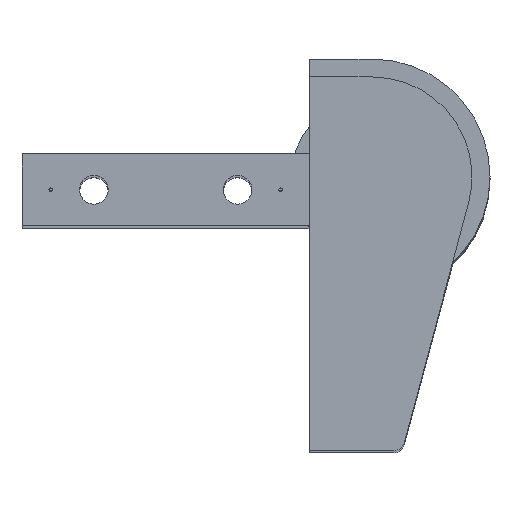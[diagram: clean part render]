
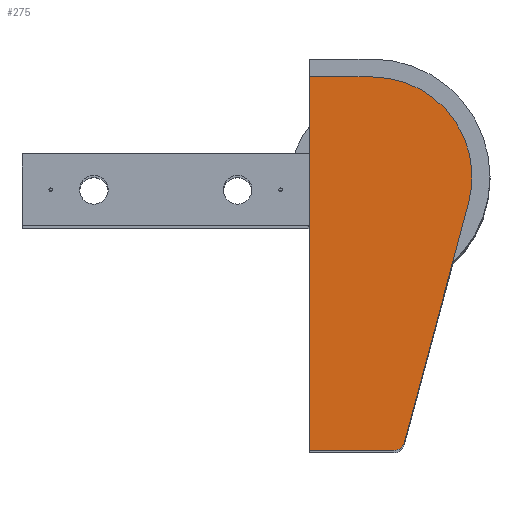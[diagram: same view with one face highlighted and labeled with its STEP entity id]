
A CAD part, top view. The second image highlights one B-rep face of the part: STEP entity #275.
In plain terms, the highlighted planar face has unit normal (0, 0, 1).
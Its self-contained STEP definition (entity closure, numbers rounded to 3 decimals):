
#124 = DIRECTION ( 'NONE',  ( 0., 0., 1. ) ) ;
#212 = VECTOR ( 'NONE', #1602, 1000. ) ;
#214 = LINE ( 'NONE', #1567, #1303 ) ;
#259 = CARTESIAN_POINT ( 'NONE',  ( 3273.261, -109., 196. ) ) ;
#275 = ADVANCED_FACE ( 'NONE', ( #1253 ), #1188, .T. ) ;
#311 = VERTEX_POINT ( 'NONE', #498 ) ;
#333 = DIRECTION ( 'NONE',  ( -1., 0., 0. ) ) ;
#364 = CARTESIAN_POINT ( 'NONE',  ( 3276.159, -106.776, 196. ) ) ;
#394 = ORIENTED_EDGE ( 'NONE', *, *, #1092, .T. ) ;
#498 = CARTESIAN_POINT ( 'NONE',  ( 3249.7, -5., 196. ) ) ;
#507 = CARTESIAN_POINT ( 'NONE',  ( 3273.261, -106., 196. ) ) ;
#533 = DIRECTION ( 'NONE',  ( 1., 0., 0. ) ) ;
#628 = DIRECTION ( 'NONE',  ( 0., -1., 0. ) ) ;
#659 = DIRECTION ( 'NONE',  ( 0., 0., 1. ) ) ;
#770 = EDGE_CURVE ( 'NONE', #311, #977, #2283, .T. ) ;
#776 = VECTOR ( 'NONE', #1481, 1000. ) ;
#780 = EDGE_CURVE ( 'NONE', #1911, #1093, #2029, .T. ) ;
#838 = AXIS2_PLACEMENT_3D ( 'NONE', #507, #2278, #333 ) ;
#874 = AXIS2_PLACEMENT_3D ( 'NONE', #2223, #124, #1896 ) ;
#918 = EDGE_CURVE ( 'NONE', #977, #1660, #214, .T. ) ;
#919 = CIRCLE ( 'NONE', #838, 3. ) ;
#955 = CARTESIAN_POINT ( 'NONE',  ( 3267.2, -5., 196. ) ) ;
#968 = EDGE_CURVE ( 'NONE', #1660, #1911, #919, .T. ) ;
#977 = VERTEX_POINT ( 'NONE', #1930 ) ;
#1092 = EDGE_CURVE ( 'NONE', #1169, #311, #1157, .T. ) ;
#1093 = VERTEX_POINT ( 'NONE', #1434 ) ;
#1142 = CARTESIAN_POINT ( 'NONE',  ( 3276.159, -106.776, 196. ) ) ;
#1153 = DIRECTION ( 'NONE',  ( -1., 0., 0. ) ) ;
#1157 = LINE ( 'NONE', #2148, #212 ) ;
#1169 = VERTEX_POINT ( 'NONE', #955 ) ;
#1188 = PLANE ( 'NONE',  #874 ) ;
#1253 = FACE_OUTER_BOUND ( 'NONE', #1994, .T. ) ;
#1293 = ORIENTED_EDGE ( 'NONE', *, *, #770, .T. ) ;
#1303 = VECTOR ( 'NONE', #533, 1000. ) ;
#1434 = CARTESIAN_POINT ( 'NONE',  ( 3294.053, -39.995, 196. ) ) ;
#1480 = ORIENTED_EDGE ( 'NONE', *, *, #1727, .T. ) ;
#1481 = DIRECTION ( 'NONE',  ( 0.259, 0.966, 0. ) ) ;
#1567 = CARTESIAN_POINT ( 'NONE',  ( 3249.7, -109., 196. ) ) ;
#1602 = DIRECTION ( 'NONE',  ( -1., 0., 0. ) ) ;
#1637 = ORIENTED_EDGE ( 'NONE', *, *, #968, .T. ) ;
#1652 = CARTESIAN_POINT ( 'NONE',  ( 3249.7, -46.4, 196. ) ) ;
#1655 = ORIENTED_EDGE ( 'NONE', *, *, #780, .T. ) ;
#1660 = VERTEX_POINT ( 'NONE', #259 ) ;
#1698 = VECTOR ( 'NONE', #628, 1000. ) ;
#1727 = EDGE_CURVE ( 'NONE', #1093, #1169, #2078, .T. ) ;
#1896 = DIRECTION ( 'NONE',  ( 1., 0., 0. ) ) ;
#1911 = VERTEX_POINT ( 'NONE', #364 ) ;
#1930 = CARTESIAN_POINT ( 'NONE',  ( 3249.7, -109., 196. ) ) ;
#1994 = EDGE_LOOP ( 'NONE', ( #1480, #394, #1293, #2079, #1637, #1655 ) ) ;
#2029 = LINE ( 'NONE', #1142, #776 ) ;
#2078 = CIRCLE ( 'NONE', #2132, 27.8 ) ;
#2079 = ORIENTED_EDGE ( 'NONE', *, *, #918, .T. ) ;
#2132 = AXIS2_PLACEMENT_3D ( 'NONE', #2194, #659, #1153 ) ;
#2148 = CARTESIAN_POINT ( 'NONE',  ( 3273.261, -5., 196. ) ) ;
#2194 = CARTESIAN_POINT ( 'NONE',  ( 3267.2, -32.8, 196. ) ) ;
#2223 = CARTESIAN_POINT ( 'NONE',  ( 3273.261, -106., 196. ) ) ;
#2278 = DIRECTION ( 'NONE',  ( 0., 0., 1. ) ) ;
#2283 = LINE ( 'NONE', #1652, #1698 ) ;
